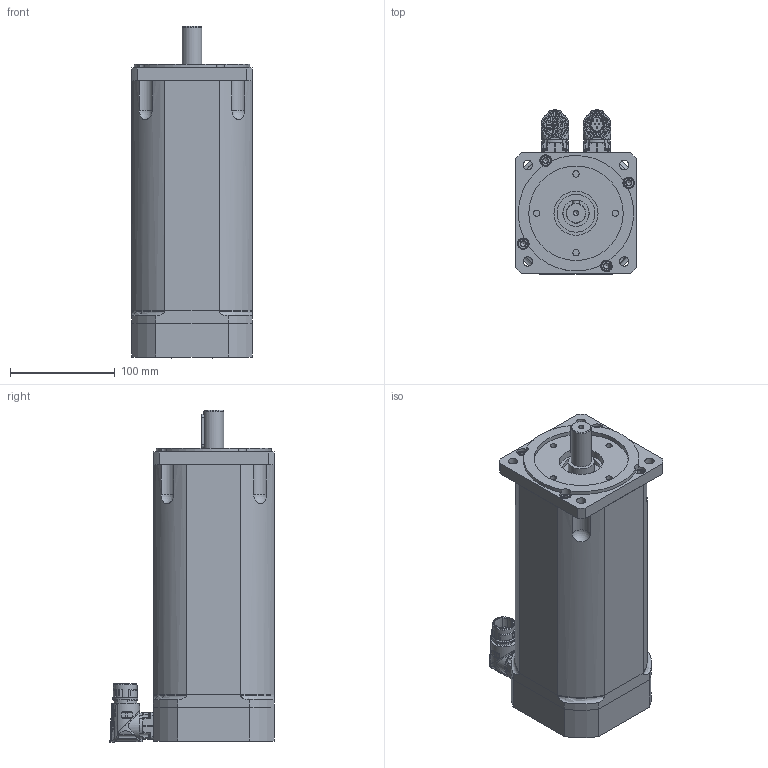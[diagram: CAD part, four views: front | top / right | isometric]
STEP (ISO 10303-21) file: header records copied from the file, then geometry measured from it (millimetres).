
FILE_DESCRIPTION(/* description */ (''),/* implementation_level */ '2;1');
FILE_NAME(/* name */ 'C:\Users\Public\Documents\Autodesk\Inventor LT 2014\Workspace\Motori Sito WEB\TG_4\STEP_DSM5_4x\DSM5_43_x197.stp',/* time_stamp */ '2021-03-31T14:14:36+02:00',/* author */ ('marcor'),/* organization */ (''),/* preprocessor_version */ 'ST-DEVELOPER v15.2',/* originating_system */ 'Autodesk Inventor LT ',/* authorisation */ '');
FILE_SCHEMA (('AUTOMOTIVE_DESIGN { 1 0 10303 214 3 1 1 }'));
Products named in the file (1): DSM5_43_x197
Bounding box: 115 x 156.5 x 316.41 mm (x, y, z)
Volume: 3320159.5 mm3; surface area: 248051 mm2
Topology: 16 solids, 26 shells, 1471 faces, 3858 edges, 2570 vertices
Faces by surface type: plane 522, cylinder 442, cone 287, bspline 113, torus 75, sphere 32
Full cylindrical faces by diameter (mm): 1.2 x12, 2.224 x8, 2.233 x6, 2.5 x8, 2.88 x8, 3.26 x8, 4.134 x4, 4.5 x2, 4.8 x8, 4.917 x9, 5 x4, 5.5 x7, 5.9 x2, 6 x12, 6.5 x8, 8.5 x4, 9 x4, 10 x12, 11 x8, 15.2 x1, 17.4 x3, 18 x1, 19 x1, 19.8 x1, 21.15 x4, 21.6 x1, 21.653 x2, 23.8 x1, 24.3 x2, 24.9 x1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
Entity records: 52348 total; most frequent: CARTESIAN_POINT 17867, ORIENTED_EDGE 6846, DIRECTION 6385, EDGE_CURVE 3423, AXIS2_PLACEMENT_3D 2597, VERTEX_POINT 2453, EDGE_LOOP 1986, ADVANCED_FACE 1471
